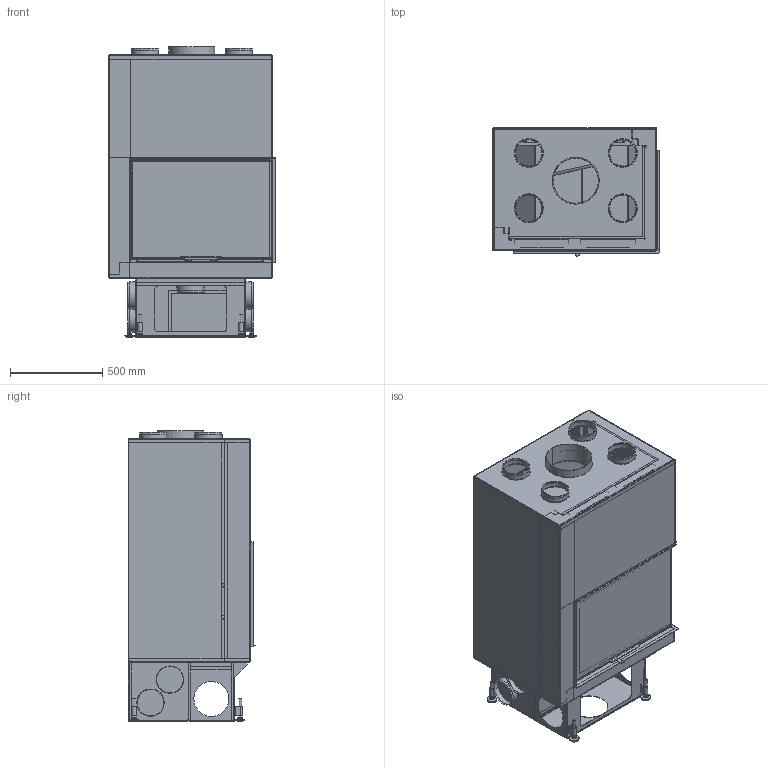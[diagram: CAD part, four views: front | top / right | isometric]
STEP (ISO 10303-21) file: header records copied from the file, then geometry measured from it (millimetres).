
FILE_DESCRIPTION(/* description */ (''),/* implementation_level */ '2;1');
FILE_NAME(/* name */ 'R:\Daten\Technik\Produkte\720\3D Export Files\720_VS_ECO_rechts_Gen5.stp',/* time_stamp */ '2014-03-11T09:04:02+01:00',/* author */ ('rhu'),/* organization */ (''),/* preprocessor_version */ 'ST-DEVELOPER v15.2',/* originating_system */ 'Autodesk Inventor 2014',/* authorisation */ '');
FILE_SCHEMA (('AUTOMOTIVE_DESIGN { 1 0 10303 214 3 1 1 }'));
Products named in the file (5): 2014-00942; 2014-00941; 2014-00943; 2014-00940; 2014-00944
Bounding box: 901.5 x 693.43 x 1574.5 mm (x, y, z)
Volume: 84905719.8 mm3; surface area: 24636285.9 mm2
Topology: 37 solids, 40 shells, 2780 faces, 7612 edges, 4758 vertices
Faces by surface type: plane 1735, cylinder 909, cone 102, bspline 20, torus 14
Full cylindrical faces by diameter (mm): 6 x2, 10 x6, 16 x8, 30 x4, 144 x5, 146 x4, 148 x9, 150 x5, 190 x2, 200 x1, 244 x1, 250 x1, 255 x1
Entity records: 91240 total; most frequent: CARTESIAN_POINT 17434, ORIENTED_EDGE 15014, DIRECTION 14617, EDGE_CURVE 7495, LINE 5205, VECTOR 5205, VERTEX_POINT 4740, AXIS2_PLACEMENT_3D 4706
